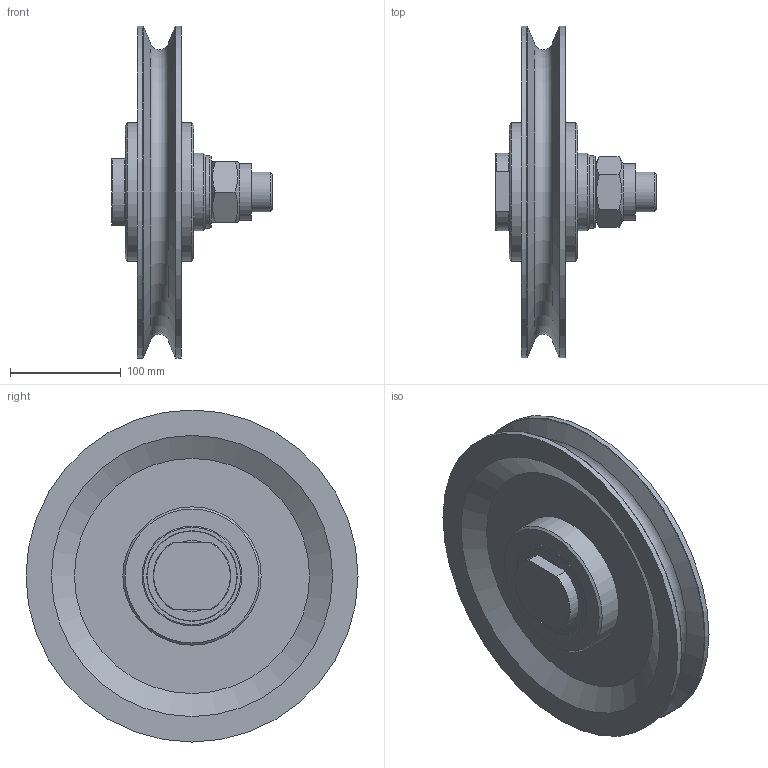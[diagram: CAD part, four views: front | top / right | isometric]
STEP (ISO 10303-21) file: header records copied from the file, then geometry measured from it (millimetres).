
FILE_DESCRIPTION(/* description */ ('Seilrolle ø300 feststehende Achse'),/* implementation_level */ '2;1');
FILE_NAME(/* name */ 'Z:\Workspace\03 Seilrollen\1.408 K Seilrollen feststehende Achse Kugellager\1.408.08 K Seilrolle ø300 feststehende Achse KL\1.408.08 K Seilrolle ø300 feststehende Achse.stp',/* time_stamp */ '2021-10-11T09:35:33+02:00',/* author */ ('cad-user'),/* organization */ (''),/* preprocessor_version */ 'ST-DEVELOPER v18',/* originating_system */ 'Autodesk Inventor 2020',/* authorisation */ '');
FILE_SCHEMA (('AUTOMOTIVE_DESIGN { 1 0 10303 214 3 1 1 }'));
Length unit declared in the file: millimetre
Products named in the file (13): 1.408.08 K Seilrolle ø300 feststehende Achse; 1.402.08 Seilrolle ø300 Kugellager komplett; 1.402.08 Seilrolle ø300 Kugellager; 62210-2RS1; ball_bearing_62210-2rs1_0_05; ball_bearing_62210-2rs1_0_04; ball_bearing_62210-2rs1_0_03; ball_bearing_62210-2rs1_0_02; ball_bearing_62210-2rs1_0_01; 1.408.08.02 Scheibe; 1.408.08.01 Schraube; DIN 985 - M36; DIN 125-1 - B 37
Assembly tree (13 placements, depth 4):
  1.408.08 K Seilrolle ø300 feststehende Achse
    1.402.08 Seilrolle ø300 Kugellager komplett
      1.402.08 Seilrolle ø300 Kugellager
      62210-2RS1  x2
        ball_bearing_62210-2rs1_0_05
        ball_bearing_62210-2rs1_0_04
        ball_bearing_62210-2rs1_0_03
        ball_bearing_62210-2rs1_0_02
        ball_bearing_62210-2rs1_0_01
    1.408.08.02 Scheibe
    1.408.08.01 Schraube
    DIN 985 - M36
    DIN 125-1 - B 37
Bounding box: 145 x 300 x 300 mm (x, y, z)
Volume: 2103523.9 mm3; surface area: 372424.1 mm2
Topology: 15 solids, 15 shells, 153 faces, 422 edges, 315 vertices
Faces by surface type: plane 54, cylinder 49, torus 33, cone 17
Full cylindrical faces by diameter (mm): 31.67 x1, 36 x1, 37 x1, 38 x1, 50 x3, 51.1 x1, 60.891 x4, 63.975 x4, 66 x1, 70 x1, 76.812 x4, 80 x1, 81.125 x4, 81.7 x8, 81.918 x4, 90 x4, 125 x2, 300 x2
Entity records: 4101 total; most frequent: DIRECTION 742, CARTESIAN_POINT 670, ORIENTED_EDGE 572, AXIS2_PLACEMENT_3D 342, EDGE_CURVE 286, VERTEX_POINT 210, CIRCLE 208, EDGE_LOOP 138
